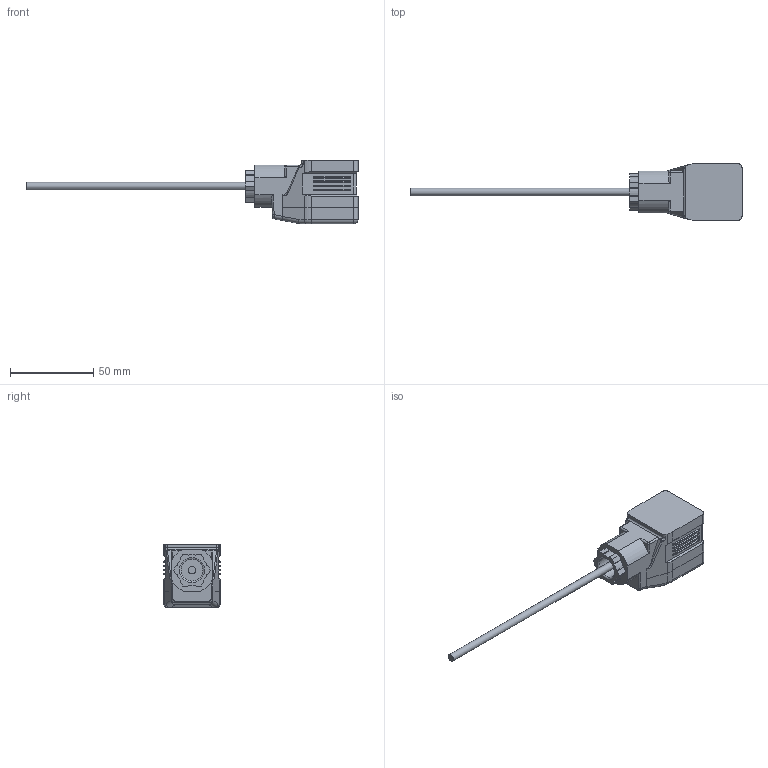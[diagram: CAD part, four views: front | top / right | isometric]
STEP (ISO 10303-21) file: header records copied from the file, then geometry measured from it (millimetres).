
FILE_DESCRIPTION(/* description */ (''),/* implementation_level */ '2;1');
FILE_NAME(/* name */ 'MPAN1.stp',/* time_stamp */ '2020-09-21T08:33:43+08:00',/* author */ (''),/* organization */ (''),/* preprocessor_version */ 'ST-DEVELOPER v16',/* originating_system */ 'SIEMENS PLM Software NX 10.0',/* authorisation */ '');
FILE_SCHEMA (('AUTOMOTIVE_DESIGN { 1 0 10303 214 3 1 1 1 }'));
Length unit declared in the file: millimetre
Products named in the file (1): Admi1DB4502Azfrl
Bounding box: 199.1 x 34 x 38 mm (x, y, z)
Volume: 64976 mm3; surface area: 16592.6 mm2
Topology: 2 solids, 2 shells, 230 faces, 568 edges, 349 vertices
Faces by surface type: plane 92, cylinder 85, bspline 40, torus 5, cone 4, sphere 4
Full cylindrical faces by diameter (mm): 4.5 x1, 13 x1
Entity records: 7675 total; most frequent: CARTESIAN_POINT 2443, ORIENTED_EDGE 1122, DIRECTION 1022, EDGE_CURVE 561, AXIS2_PLACEMENT_3D 358, VERTEX_POINT 349, LINE 306, VECTOR 306
